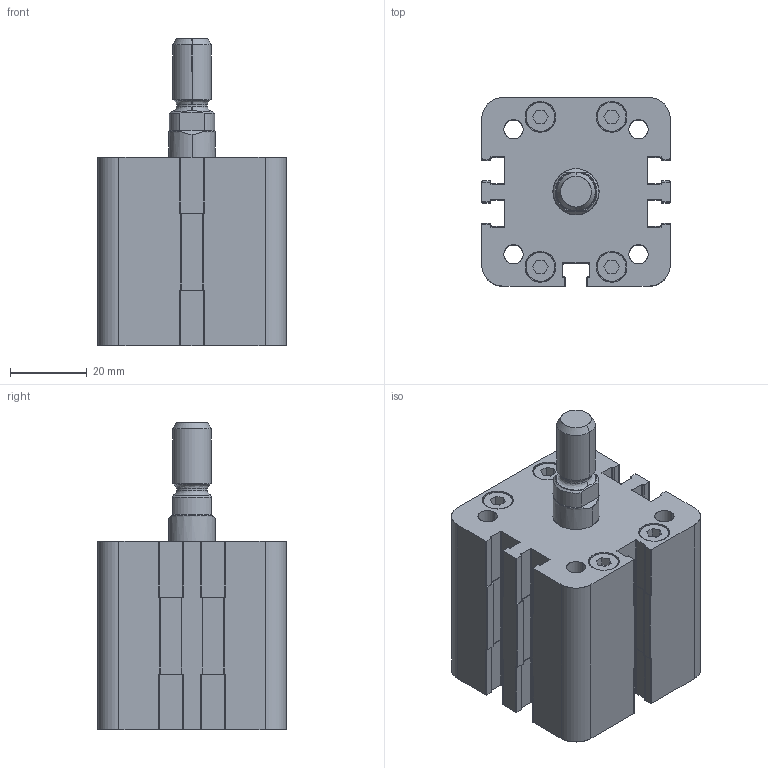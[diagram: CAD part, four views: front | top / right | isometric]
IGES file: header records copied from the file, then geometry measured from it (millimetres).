
Start section: SolidWorks IGES file using analytic representation for surfaces
Global section: file name: K:\Disegni Esecutivi\Cilindri\2_DISEGNI_cilindri_in_produzione\CILINDRO_ISO_21287\seconda versione cilindro 21287\2_CIL32\COMPLESSIVI _W_32\3D_W32_pieni\WDM32_pieni\WDM0320005A.igs; native system: SolidWorks 2011; preprocessor: SolidWorks 2011; author: Cad01; date: 120630.083558; units: millimetre
Bounding box: 49 x 49 x 80 mm (x, y, z)
Surface area: 23579.8 mm2 (no closed solid volume)
Topology: 0 solids, 0 shells, 410 faces, 4716 edges, 4716 vertices
Faces by surface type: bspline 214, revolution 196
